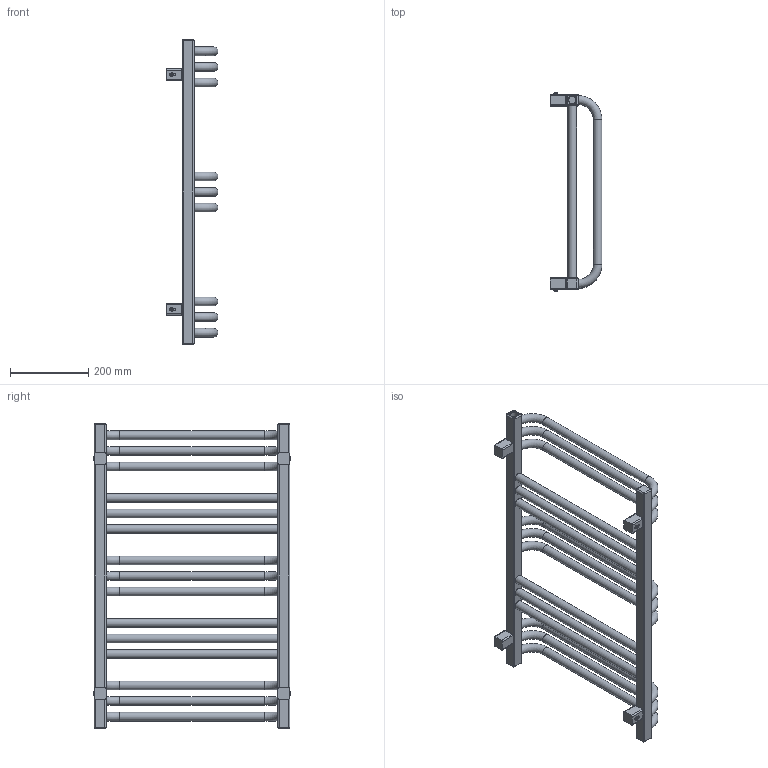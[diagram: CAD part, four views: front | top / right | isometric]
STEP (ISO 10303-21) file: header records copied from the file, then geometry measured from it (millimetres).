
FILE_DESCRIPTION((''),'2;1');
FILE_NAME('Z:\R\G\P\RGP097 - Grzejnik Poll 2012 (ALFA)\Work\Inventor\Marketing\Modele AutoCAD\PLL-780-500 S5.stp','2012-06-29T12:45:30',('KurKa'),(''),'Autodesk Inventor 2012','Autodesk Inventor 2012','');
FILE_SCHEMA(('AUTOMOTIVE_DESIGN { 1 0 10303 214 1 1 1 1 }'));
Length unit declared in the file: millimetre
Products named in the file (3): PLL-780-500 S5; MMT42_marketing
Assembly tree (5 placements, depth 2):
  PLL-780-500 S5
    PLL-780-500 S5
    MMT42_marketing  x4
Bounding box: 133 x 506 x 780 mm (x, y, z)
Volume: 4328179.4 mm3; surface area: 712150.7 mm2
Topology: 5 solids, 5 shells, 274 faces, 640 edges, 389 vertices
Faces by surface type: plane 115, cylinder 90, cone 27, torus 26, sphere 16
Full cylindrical faces by diameter (mm): 4.509 x4, 12 x4, 18.631 x3, 22 x15
Entity records: 3705 total; most frequent: DIRECTION 688, CARTESIAN_POINT 611, ORIENTED_EDGE 512, AXIS2_PLACEMENT_3D 289, EDGE_CURVE 256, EDGE_LOOP 220, VERTEX_POINT 172, CIRCLE 142
